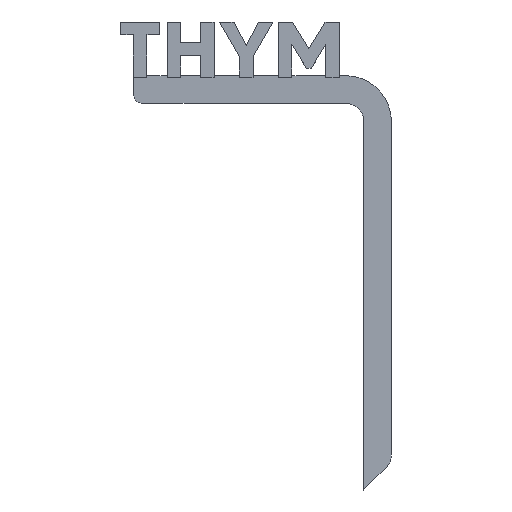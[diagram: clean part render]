
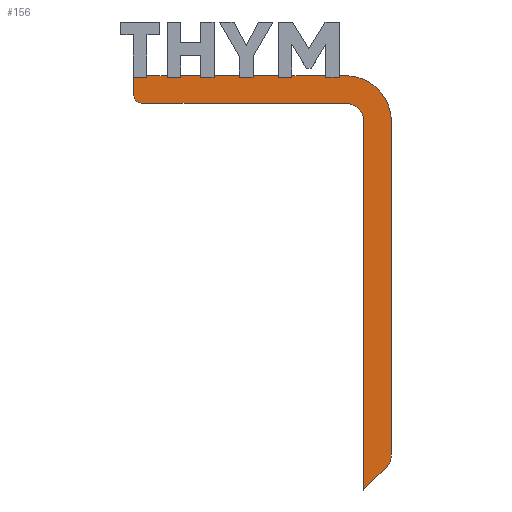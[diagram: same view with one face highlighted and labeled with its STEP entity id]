
A CAD part, top view. The second image highlights one B-rep face of the part: STEP entity #156.
In plain terms, the highlighted planar face has unit normal (0, 0, 1).
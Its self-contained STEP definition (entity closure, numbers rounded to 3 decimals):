
#156=ADVANCED_FACE('',(#331),#332,.F.);
#331=FACE_OUTER_BOUND('',#529,.T.);
#332=PLANE('',#530);
#529=EDGE_LOOP('',(#915,#916,#917,#918,#919,#920,#921,#922,#923,#924,#925,#926,#927,#928,#929,#930,#931,#932,#933,#934,#935,#936,#937,#938,#939,#940,#941,#942,#943,#944,#945,#946));
#530=AXIS2_PLACEMENT_3D('',#947,#948,#949);
#915=ORIENTED_EDGE('',*,*,#1413,.T.);
#916=ORIENTED_EDGE('',*,*,#1414,.T.);
#917=ORIENTED_EDGE('',*,*,#1284,.T.);
#918=ORIENTED_EDGE('',*,*,#1415,.T.);
#919=ORIENTED_EDGE('',*,*,#1416,.T.);
#920=ORIENTED_EDGE('',*,*,#1299,.T.);
#921=ORIENTED_EDGE('',*,*,#1417,.T.);
#922=ORIENTED_EDGE('',*,*,#1418,.T.);
#923=ORIENTED_EDGE('',*,*,#1419,.T.);
#924=ORIENTED_EDGE('',*,*,#1420,.T.);
#925=ORIENTED_EDGE('',*,*,#1421,.T.);
#926=ORIENTED_EDGE('',*,*,#1422,.T.);
#927=ORIENTED_EDGE('',*,*,#1423,.T.);
#928=ORIENTED_EDGE('',*,*,#1424,.T.);
#929=ORIENTED_EDGE('',*,*,#1425,.T.);
#930=ORIENTED_EDGE('',*,*,#1426,.T.);
#931=ORIENTED_EDGE('',*,*,#1337,.T.);
#932=ORIENTED_EDGE('',*,*,#1427,.T.);
#933=ORIENTED_EDGE('',*,*,#1302,.T.);
#934=ORIENTED_EDGE('',*,*,#1333,.T.);
#935=ORIENTED_EDGE('',*,*,#1329,.T.);
#936=ORIENTED_EDGE('',*,*,#1325,.T.);
#937=ORIENTED_EDGE('',*,*,#1428,.T.);
#938=ORIENTED_EDGE('',*,*,#1378,.T.);
#939=ORIENTED_EDGE('',*,*,#1357,.T.);
#940=ORIENTED_EDGE('',*,*,#1353,.T.);
#941=ORIENTED_EDGE('',*,*,#1287,.T.);
#942=ORIENTED_EDGE('',*,*,#1429,.T.);
#943=ORIENTED_EDGE('',*,*,#1430,.T.);
#944=ORIENTED_EDGE('',*,*,#1431,.T.);
#945=ORIENTED_EDGE('',*,*,#1292,.T.);
#946=ORIENTED_EDGE('',*,*,#1432,.T.);
#947=CARTESIAN_POINT('',(0.0,0.0,2.0));
#948=DIRECTION('',(0.0,0.0,-1.0));
#949=DIRECTION('',(-1.0,0.0,0.0));
#1284=EDGE_CURVE('',#1542,#1546,#1548,.T.);
#1287=EDGE_CURVE('',#1553,#1550,#1554,.T.);
#1292=EDGE_CURVE('',#1562,#1559,#1563,.T.);
#1299=EDGE_CURVE('',#1569,#1573,#1575,.T.);
#1302=EDGE_CURVE('',#1580,#1577,#1581,.T.);
#1325=EDGE_CURVE('',#1617,#1615,#1618,.T.);
#1329=EDGE_CURVE('',#1623,#1617,#1624,.T.);
#1333=EDGE_CURVE('',#1577,#1623,#1629,.T.);
#1337=EDGE_CURVE('',#1633,#1634,#1635,.T.);
#1353=EDGE_CURVE('',#1663,#1553,#1664,.T.);
#1357=EDGE_CURVE('',#1668,#1663,#1669,.T.);
#1378=EDGE_CURVE('',#1696,#1668,#1697,.T.);
#1413=EDGE_CURVE('',#1757,#1758,#1759,.T.);
#1414=EDGE_CURVE('',#1758,#1542,#1760,.T.);
#1415=EDGE_CURVE('',#1546,#1761,#1762,.T.);
#1416=EDGE_CURVE('',#1761,#1569,#1763,.T.);
#1417=EDGE_CURVE('',#1573,#1764,#1765,.F.);
#1418=EDGE_CURVE('',#1764,#1766,#1767,.T.);
#1419=EDGE_CURVE('',#1766,#1768,#1769,.T.);
#1420=EDGE_CURVE('',#1768,#1770,#1771,.T.);
#1421=EDGE_CURVE('',#1770,#1772,#1773,.F.);
#1422=EDGE_CURVE('',#1772,#1774,#1775,.F.);
#1423=EDGE_CURVE('',#1774,#1776,#1777,.T.);
#1424=EDGE_CURVE('',#1776,#1778,#1779,.F.);
#1425=EDGE_CURVE('',#1778,#1780,#1781,.T.);
#1426=EDGE_CURVE('',#1780,#1633,#1782,.T.);
#1427=EDGE_CURVE('',#1634,#1580,#1783,.T.);
#1428=EDGE_CURVE('',#1615,#1696,#1784,.T.);
#1429=EDGE_CURVE('',#1550,#1785,#1786,.T.);
#1430=EDGE_CURVE('',#1785,#1787,#1788,.T.);
#1431=EDGE_CURVE('',#1787,#1562,#1789,.T.);
#1432=EDGE_CURVE('',#1559,#1757,#1790,.T.);
#1542=VERTEX_POINT('',#1930);
#1546=VERTEX_POINT('',#1936);
#1548=LINE('',#1939,#1940);
#1550=VERTEX_POINT('',#1942);
#1553=VERTEX_POINT('',#1946);
#1554=LINE('',#1947,#1948);
#1559=VERTEX_POINT('',#1955);
#1562=VERTEX_POINT('',#1959);
#1563=LINE('',#1960,#1961);
#1569=VERTEX_POINT('',#1969);
#1573=VERTEX_POINT('',#1975);
#1575=LINE('',#1978,#1979);
#1577=VERTEX_POINT('',#1981);
#1580=VERTEX_POINT('',#1985);
#1581=LINE('',#1986,#1987);
#1615=VERTEX_POINT('',#2037);
#1617=VERTEX_POINT('',#2040);
#1618=LINE('',#2041,#2042);
#1623=VERTEX_POINT('',#2049);
#1624=LINE('',#2050,#2051);
#1629=LINE('',#2058,#2059);
#1633=VERTEX_POINT('',#2065);
#1634=VERTEX_POINT('',#2066);
#1635=LINE('',#2067,#2068);
#1663=VERTEX_POINT('',#2109);
#1664=LINE('',#2110,#2111);
#1668=VERTEX_POINT('',#2117);
#1669=LINE('',#2118,#2119);
#1696=VERTEX_POINT('',#2159);
#1697=LINE('',#2160,#2161);
#1757=VERTEX_POINT('',#2249);
#1758=VERTEX_POINT('',#2250);
#1759=LINE('',#2251,#2252);
#1760=LINE('',#2253,#2254);
#1761=VERTEX_POINT('',#2255);
#1762=LINE('',#2256,#2257);
#1763=LINE('',#2258,#2259);
#1764=VERTEX_POINT('',#2260);
#1765=CIRCLE('',#2261,1.0);
#1766=VERTEX_POINT('',#2262);
#1767=LINE('',#2263,#2264);
#1768=VERTEX_POINT('',#2265);
#1769=CIRCLE('',#2266,2.0);
#1770=VERTEX_POINT('',#2267);
#1771=LINE('',#2268,#2269);
#1772=VERTEX_POINT('',#2270);
#1773=LINE('',#2271,#2272);
#1774=VERTEX_POINT('',#2273);
#1775=CIRCLE('',#2274,2.0);
#1776=VERTEX_POINT('',#2275);
#1777=LINE('',#2276,#2277);
#1778=VERTEX_POINT('',#2278);
#1779=CIRCLE('',#2279,5.0);
#1780=VERTEX_POINT('',#2280);
#1781=LINE('',#2281,#2282);
#1782=LINE('',#2283,#2284);
#1783=LINE('',#2285,#2286);
#1784=LINE('',#2287,#2288);
#1785=VERTEX_POINT('',#2289);
#1786=LINE('',#2290,#2291);
#1787=VERTEX_POINT('',#2292);
#1788=LINE('',#2293,#2294);
#1789=LINE('',#2295,#2296);
#1790=LINE('',#2297,#2298);
#1930=CARTESIAN_POINT('',(-24.38,0.,2.0));
#1936=CARTESIAN_POINT('',(-26.558,0.,2.0));
#1939=CARTESIAN_POINT('',(-14.0,0.,2.0));
#1940=VECTOR('',#2469,1.0);
#1942=CARTESIAN_POINT('',(-19.272,0.,2.0));
#1946=CARTESIAN_POINT('',(-16.511,0.,2.0));
#1947=CARTESIAN_POINT('',(-14.0,0.,2.0));
#1948=VECTOR('',#2471,1.0);
#1955=CARTESIAN_POINT('',(-22.915,0.,2.0));
#1959=CARTESIAN_POINT('',(-20.737,0.,2.0));
#1960=CARTESIAN_POINT('',(-14.0,0.,2.0));
#1961=VECTOR('',#2475,1.0);
#1969=CARTESIAN_POINT('',(-28.0,-0.169,2.0));
#1975=CARTESIAN_POINT('',(-28.0,-2.0,2.0));
#1978=CARTESIAN_POINT('',(-28.0,-1.5,2.0));
#1979=VECTOR('',#2481,1.0);
#1981=CARTESIAN_POINT('',(-10.812,0.,2.0));
#1985=CARTESIAN_POINT('',(-7.142,0.,2.0));
#1986=CARTESIAN_POINT('',(-14.0,0.,2.0));
#1987=VECTOR('',#2483,1.0);
#2037=CARTESIAN_POINT('',(-12.277,0.,2.0));
#2040=CARTESIAN_POINT('',(-12.277,-0.169,2.0));
#2041=CARTESIAN_POINT('',(-12.277,0.0,2.0));
#2042=VECTOR('',#2501,1.0);
#2049=CARTESIAN_POINT('',(-10.812,-0.169,2.0));
#2050=CARTESIAN_POINT('',(0.0,-0.169,2.0));
#2051=VECTOR('',#2504,1.0);
#2058=CARTESIAN_POINT('',(-10.812,0.0,2.0));
#2059=VECTOR('',#2507,1.0);
#2065=CARTESIAN_POINT('',(-5.669,-0.169,2.0));
#2066=CARTESIAN_POINT('',(-7.142,-0.169,2.0));
#2067=CARTESIAN_POINT('',(0.0,-0.169,2.0));
#2068=VECTOR('',#2510,1.0);
#2109=CARTESIAN_POINT('',(-16.511,-0.169,2.0));
#2110=CARTESIAN_POINT('',(-16.511,0.0,2.0));
#2111=VECTOR('',#2524,1.0);
#2117=CARTESIAN_POINT('',(-15.038,-0.169,2.0));
#2118=CARTESIAN_POINT('',(0.0,-0.169,2.0));
#2119=VECTOR('',#2527,1.0);
#2159=CARTESIAN_POINT('',(-15.038,0.,2.0));
#2160=CARTESIAN_POINT('',(-15.038,0.0,2.0));
#2161=VECTOR('',#2541,1.0);
#2249=CARTESIAN_POINT('',(-22.915,-0.169,2.0));
#2250=CARTESIAN_POINT('',(-24.38,-0.169,2.0));
#2251=CARTESIAN_POINT('',(0.0,-0.169,2.0));
#2252=VECTOR('',#2582,1.0);
#2253=CARTESIAN_POINT('',(-24.38,0.0,2.0));
#2254=VECTOR('',#2583,1.0);
#2255=CARTESIAN_POINT('',(-26.558,-0.169,2.0));
#2256=CARTESIAN_POINT('',(-26.558,0.0,2.0));
#2257=VECTOR('',#2584,1.0);
#2258=CARTESIAN_POINT('',(0.0,-0.169,2.0));
#2259=VECTOR('',#2585,1.0);
#2260=CARTESIAN_POINT('',(-27.0,-3.0,2.0));
#2261=AXIS2_PLACEMENT_3D('',#2586,#2587,#2588);
#2262=CARTESIAN_POINT('',(-5.0,-3.0,2.0));
#2263=CARTESIAN_POINT('',(-15.5,-3.0,2.0));
#2264=VECTOR('',#2589,1.0);
#2265=CARTESIAN_POINT('',(-3.0,-5.0,2.0));
#2266=AXIS2_PLACEMENT_3D('',#2590,#2591,#2592);
#2267=CARTESIAN_POINT('',(-3.0,-45.0,2.0));
#2268=CARTESIAN_POINT('',(-3.0,-24.0,2.0));
#2269=VECTOR('',#2593,1.0);
#2270=CARTESIAN_POINT('',(-0.586,-42.586,2.0));
#2271=CARTESIAN_POINT('',(-3.0,-45.0,2.0));
#2272=VECTOR('',#2594,1.0);
#2273=CARTESIAN_POINT('',(0.,-41.172,2.0));
#2274=AXIS2_PLACEMENT_3D('',#2595,#2596,#2597);
#2275=CARTESIAN_POINT('',(0.,-5.0,2.0));
#2276=CARTESIAN_POINT('',(0.0,-22.5,2.0));
#2277=VECTOR('',#2598,1.0);
#2278=CARTESIAN_POINT('',(-5.0,0.,2.0));
#2279=AXIS2_PLACEMENT_3D('',#2599,#2600,#2601);
#2280=CARTESIAN_POINT('',(-5.669,0.,2.0));
#2281=CARTESIAN_POINT('',(-14.0,0.,2.0));
#2282=VECTOR('',#2602,1.0);
#2283=CARTESIAN_POINT('',(-5.669,0.0,2.0));
#2284=VECTOR('',#2603,1.0);
#2285=CARTESIAN_POINT('',(-7.142,0.0,2.0));
#2286=VECTOR('',#2604,1.0);
#2287=CARTESIAN_POINT('',(-14.0,0.,2.0));
#2288=VECTOR('',#2605,1.0);
#2289=CARTESIAN_POINT('',(-19.272,-0.169,2.0));
#2290=CARTESIAN_POINT('',(-19.272,0.0,2.0));
#2291=VECTOR('',#2606,1.0);
#2292=CARTESIAN_POINT('',(-20.737,-0.169,2.0));
#2293=CARTESIAN_POINT('',(0.0,-0.169,2.0));
#2294=VECTOR('',#2607,1.0);
#2295=CARTESIAN_POINT('',(-20.737,0.0,2.0));
#2296=VECTOR('',#2608,1.0);
#2297=CARTESIAN_POINT('',(-22.915,0.0,2.0));
#2298=VECTOR('',#2609,1.0);
#2469=DIRECTION('',(-1.0,0.,0.0));
#2471=DIRECTION('',(-1.0,0.,0.0));
#2475=DIRECTION('',(-1.0,0.,0.0));
#2481=DIRECTION('',(0.,-1.0,0.0));
#2483=DIRECTION('',(-1.0,0.,0.0));
#2501=DIRECTION('',(0.0,1.0,0.0));
#2504=DIRECTION('',(-1.0,0.0,0.0));
#2507=DIRECTION('',(0.0,-1.0,0.0));
#2510=DIRECTION('',(-1.0,0.0,0.0));
#2524=DIRECTION('',(0.0,1.0,0.0));
#2527=DIRECTION('',(-1.0,0.0,0.0));
#2541=DIRECTION('',(0.0,-1.0,0.0));
#2582=DIRECTION('',(-1.0,0.0,0.0));
#2583=DIRECTION('',(0.0,1.0,0.0));
#2584=DIRECTION('',(0.0,-1.0,0.0));
#2585=DIRECTION('',(-1.0,0.0,0.0));
#2586=CARTESIAN_POINT('',(-27.0,-2.0,2.0));
#2587=DIRECTION('',(0.0,0.0,-1.0));
#2588=DIRECTION('',(-1.0,0.0,0.0));
#2589=DIRECTION('',(1.0,0.,0.0));
#2590=CARTESIAN_POINT('',(-5.0,-5.0,2.0));
#2591=DIRECTION('',(0.0,0.0,-1.0));
#2592=DIRECTION('',(-1.0,0.0,0.0));
#2593=DIRECTION('',(0.,-1.0,0.0));
#2594=DIRECTION('',(-0.707,-0.707,0.0));
#2595=CARTESIAN_POINT('',(-2.0,-41.172,2.0));
#2596=DIRECTION('',(0.0,0.0,-1.0));
#2597=DIRECTION('',(-1.0,0.0,0.0));
#2598=DIRECTION('',(0.,1.0,0.0));
#2599=CARTESIAN_POINT('',(-5.0,-5.0,2.0));
#2600=DIRECTION('',(0.0,0.0,-1.0));
#2601=DIRECTION('',(-1.0,0.0,0.0));
#2602=DIRECTION('',(-1.0,0.,0.0));
#2603=DIRECTION('',(0.0,-1.0,0.0));
#2604=DIRECTION('',(0.0,1.0,0.0));
#2605=DIRECTION('',(-1.0,0.,0.0));
#2606=DIRECTION('',(0.0,-1.0,0.0));
#2607=DIRECTION('',(-1.0,0.0,0.0));
#2608=DIRECTION('',(0.0,1.0,0.0));
#2609=DIRECTION('',(0.0,-1.0,0.0));
